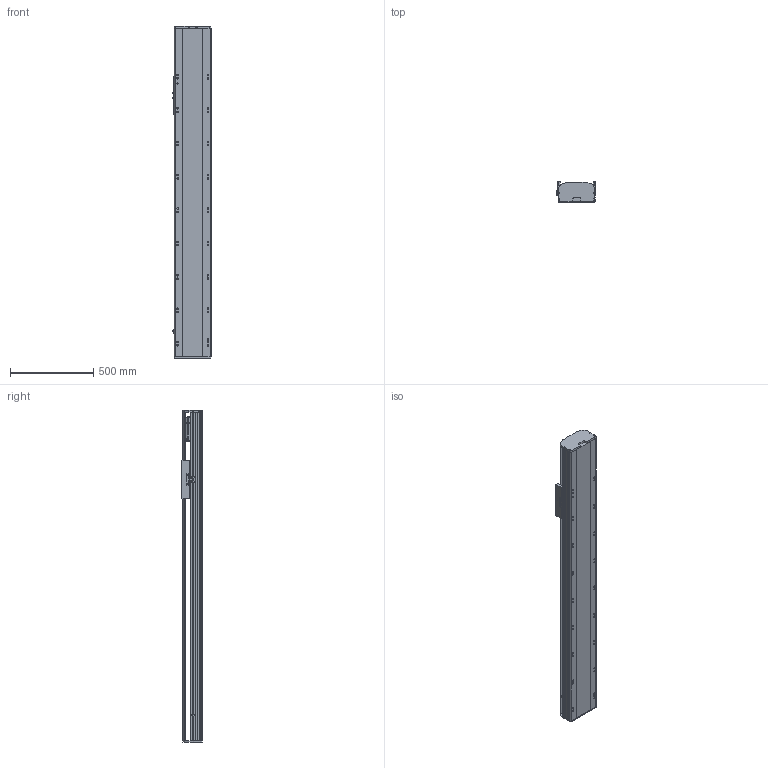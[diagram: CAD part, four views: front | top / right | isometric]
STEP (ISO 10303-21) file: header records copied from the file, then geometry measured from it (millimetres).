
FILE_DESCRIPTION (( 'STEP AP214' ), '1' );
FILE_NAME ('RTH22-XX-1400-B-M75-C4.STEP', '2025-10-24T10:35:37', ( 'Microsoft' ), ( 'Microsoft' ), 'SwSTEP 2.0', 'SolidWorks 2018', '' );
FILE_SCHEMA (( 'AUTOMOTIVE_DESIGN' ));
Length unit declared in the file: millimetre
Products named in the file (9): N_OMRON EE-SX672 传感器^RTH22-XX-XX-B-M75-C4; N_RTH22-B-011菁釱^RTH22-XX-XX-B-M75-C4; N_RTH22-E-004-SFS25賑釱^RTH22-XX-XX-B-M75-C4; RTH22-XX-1400-B-M75-C4; N_RTH22-B-007奻裔^RTH22-XX-XX-B-M75-C4; N_RTH22-GY-001耜裔^RTH22-XX-XX-B-M75-C4; N_750W萇儂^RTH22-XX-XX-B-M75-C4; N_RTH22-B-008萇儂啣^RTH22-XX-XX-B-M75-C4; N_RTH22-GY-013外置感应片^RTH22-XX-XX-B-M75-C4
Assembly tree (10 placements, depth 2):
  RTH22-XX-1400-B-M75-C4
    N_RTH22-B-011菁釱^RTH22-XX-XX-B-M75-C4
    N_RTH22-GY-001耜裔^RTH22-XX-XX-B-M75-C4
    N_750W萇儂^RTH22-XX-XX-B-M75-C4
    N_RTH22-B-008萇儂啣^RTH22-XX-XX-B-M75-C4
    N_RTH22-B-007奻裔^RTH22-XX-XX-B-M75-C4
    N_OMRON EE-SX672 传感器^RTH22-XX-XX-B-M75-C4  x3
    N_RTH22-GY-013外置感应片^RTH22-XX-XX-B-M75-C4
    N_RTH22-E-004-SFS25賑釱^RTH22-XX-XX-B-M75-C4
Bounding box: 238.5 x 122 x 1990 mm (x, y, z)
Volume: 26158343.4 mm3; surface area: 2675183.8 mm2
Topology: 10 solids, 10 shells, 1569 faces, 4300 edges, 2773 vertices
Faces by surface type: plane 758, cylinder 466, bspline 279, cone 66
Entity records: 39407 total; most frequent: CARTESIAN_POINT 12141, ORIENTED_EDGE 5560, DIRECTION 5258, EDGE_CURVE 2780, VERTEX_POINT 1809, AXIS2_PLACEMENT_3D 1786, LINE 1686, VECTOR 1686
